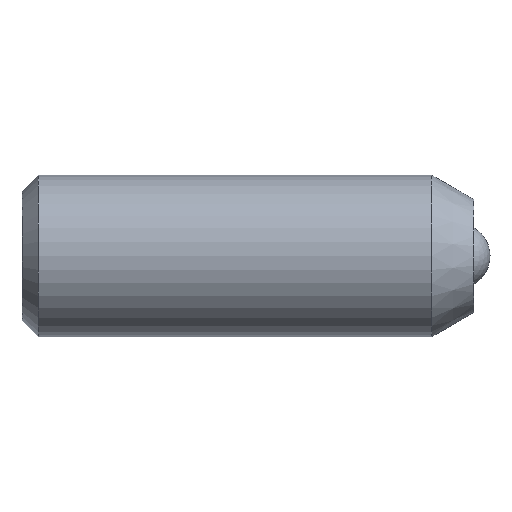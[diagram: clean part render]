
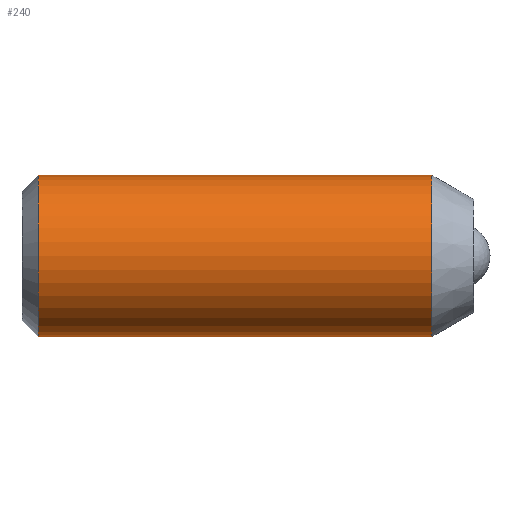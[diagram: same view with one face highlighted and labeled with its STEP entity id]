
A CAD part, top view. The second image highlights one B-rep face of the part: STEP entity #240.
In plain terms, the highlighted cylindrical face has radius 2.5 mm (diameter 5 mm), a partial arc.
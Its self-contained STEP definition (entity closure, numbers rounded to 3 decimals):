
#4 = CIRCLE ( 'NONE', #403, 2.5 ) ;
#7 = CARTESIAN_POINT ( 'NONE',  ( -14., 2.5, 0. ) ) ;
#50 = CARTESIAN_POINT ( 'NONE',  ( -1.799, 2.5, 0. ) ) ;
#60 = CARTESIAN_POINT ( 'NONE',  ( 0., 0., 0. ) ) ;
#62 = CARTESIAN_POINT ( 'NONE',  ( -1.799, -2.5, 0. ) ) ;
#111 = VERTEX_POINT ( 'NONE', #62 ) ;
#113 = LINE ( 'NONE', #341, #653 ) ;
#115 = FACE_OUTER_BOUND ( 'NONE', #192, .T. ) ;
#146 = DIRECTION ( 'NONE',  ( 1., 0., 0. ) ) ;
#148 = VERTEX_POINT ( 'NONE', #7 ) ;
#169 = DIRECTION ( 'NONE',  ( 0., 1., 0. ) ) ;
#173 = CARTESIAN_POINT ( 'NONE',  ( -14., 0., 0. ) ) ;
#192 = EDGE_LOOP ( 'NONE', ( #369, #487, #633, #499 ) ) ;
#194 = VECTOR ( 'NONE', #696, 1000. ) ;
#218 = EDGE_CURVE ( 'NONE', #148, #508, #4, .T. ) ;
#240 = ADVANCED_FACE ( 'NONE', ( #115 ), #287, .T. ) ;
#241 = AXIS2_PLACEMENT_3D ( 'NONE', #297, #627, #243 ) ;
#243 = DIRECTION ( 'NONE',  ( 0., 1., 0. ) ) ;
#286 = EDGE_CURVE ( 'NONE', #148, #692, #691, .T. ) ;
#287 = CYLINDRICAL_SURFACE ( 'NONE', #421, 2.5 ) ;
#297 = CARTESIAN_POINT ( 'NONE',  ( -1.799, 0., 0. ) ) ;
#318 = CARTESIAN_POINT ( 'NONE',  ( 0., 2.5, 0. ) ) ;
#341 = CARTESIAN_POINT ( 'NONE',  ( 0., -2.5, 0. ) ) ;
#369 = ORIENTED_EDGE ( 'NONE', *, *, #218, .T. ) ;
#403 = AXIS2_PLACEMENT_3D ( 'NONE', #173, #616, #169 ) ;
#421 = AXIS2_PLACEMENT_3D ( 'NONE', #60, #659, #602 ) ;
#487 = ORIENTED_EDGE ( 'NONE', *, *, #558, .T. ) ;
#499 = ORIENTED_EDGE ( 'NONE', *, *, #286, .F. ) ;
#508 = VERTEX_POINT ( 'NONE', #574 ) ;
#558 = EDGE_CURVE ( 'NONE', #508, #111, #113, .T. ) ;
#574 = CARTESIAN_POINT ( 'NONE',  ( -14., -2.5, 0. ) ) ;
#591 = CIRCLE ( 'NONE', #241, 2.5 ) ;
#602 = DIRECTION ( 'NONE',  ( 0., 1., 0. ) ) ;
#616 = DIRECTION ( 'NONE',  ( 1., 0., 0. ) ) ;
#627 = DIRECTION ( 'NONE',  ( 1., 0., 0. ) ) ;
#633 = ORIENTED_EDGE ( 'NONE', *, *, #646, .F. ) ;
#646 = EDGE_CURVE ( 'NONE', #692, #111, #591, .T. ) ;
#653 = VECTOR ( 'NONE', #146, 1000. ) ;
#659 = DIRECTION ( 'NONE',  ( 1., 0., 0. ) ) ;
#691 = LINE ( 'NONE', #318, #194 ) ;
#692 = VERTEX_POINT ( 'NONE', #50 ) ;
#696 = DIRECTION ( 'NONE',  ( 1., 0., 0. ) ) ;
